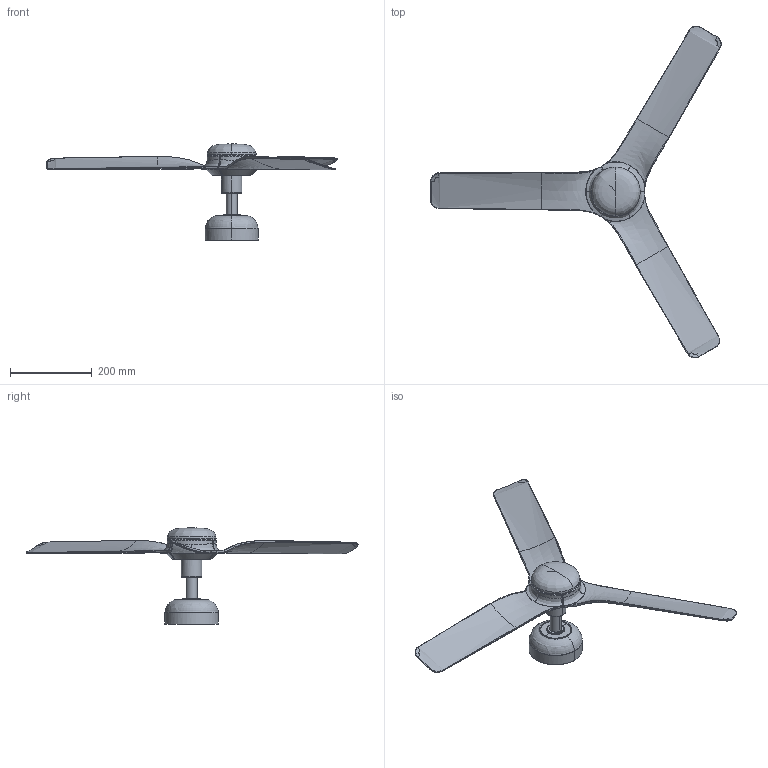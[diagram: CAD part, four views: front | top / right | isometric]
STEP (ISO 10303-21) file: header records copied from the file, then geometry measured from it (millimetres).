
FILE_DESCRIPTION(/* description */ (''),/* implementation_level */ '2;1');
FILE_NAME(/* name */ '33822.step',/* time_stamp */ '2024-04-23T09:08:32+02:00',/* author */ ('RenataManzini'),/* organization */ (''),/* preprocessor_version */ 'ST-DEVELOPER v20',/* originating_system */ 'AutoCAD Mechanical',/* authorisation */ '');
FILE_SCHEMA (('AUTOMOTIVE_DESIGN { 1 0 10303 214 3 1 1 }'));
Length unit declared in the file: millimetre
Products named in the file (4): Product; MINIPUNT_S - fan-512624-_3D_; MINIPUNT_S - MINIPUNT_dwg_900YP-512580-_3D_; MINIPUNT_S - MINIPUNT_dwg_900YP-V1-_3D_
Assembly tree (4 placements, depth 3):
  Product
    MINIPUNT_S - fan-512624-_3D_
      MINIPUNT_S - MINIPUNT_dwg_900YP-512580-_3D_
      MINIPUNT_S - MINIPUNT_dwg_900YP-V1-_3D_  x2
Bounding box: 709.41 x 810.75 x 234.8 mm (x, y, z)
Volume: 802097.2 mm3; surface area: 443541.3 mm2
Topology: 4 solids, 28 shells, 670 faces, 4417 edges, 3700 vertices
Faces by surface type: plane 380, bspline 121, cylinder 109, torus 42, cone 18
Entity records: 41485 total; most frequent: CARTESIAN_POINT 19319, ORIENTED_EDGE 4326, DIRECTION 3693, EDGE_CURVE 3107, VERTEX_POINT 2569, LINE 2391, VECTOR 2391, AXIS2_PLACEMENT_3D 651
